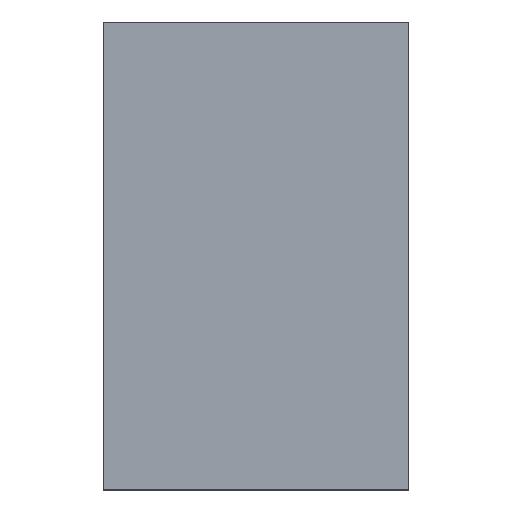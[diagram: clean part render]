
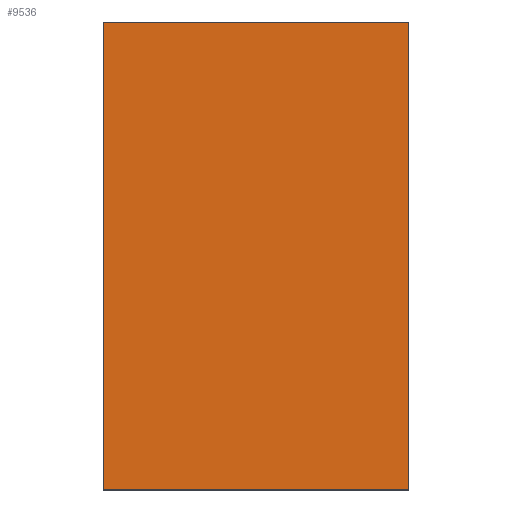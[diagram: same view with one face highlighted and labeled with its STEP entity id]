
A CAD part, top view. The second image highlights one B-rep face of the part: STEP entity #9536.
In plain terms, the highlighted planar face has unit normal (0, 0, 1).
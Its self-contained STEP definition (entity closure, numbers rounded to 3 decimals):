
#9484=CARTESIAN_POINT('Vertex',(-200.,555.268,78.)) ;
#9487=CARTESIAN_POINT('Line Origine',(0.,555.268,78.)) ;
#9491=CARTESIAN_POINT('Vertex',(200.,555.268,78.)) ;
#9506=CARTESIAN_POINT('Axis2P3D Location',(0.,-57.732,78.)) ;
#9511=CARTESIAN_POINT('Line Origine',(200.,248.768,78.)) ;
#9515=CARTESIAN_POINT('Vertex',(200.,-57.732,78.)) ;
#9518=CARTESIAN_POINT('Line Origine',(-200.,248.768,78.)) ;
#9522=CARTESIAN_POINT('Vertex',(-200.,-57.732,78.)) ;
#9525=CARTESIAN_POINT('Line Origine',(0.,-57.732,78.)) ;
#9488=DIRECTION('Vector Direction',(1.,0.,0.)) ;
#9507=DIRECTION('Axis2P3D Direction',(0.,0.,-1.)) ;
#9508=DIRECTION('Axis2P3D XDirection',(0.,1.,0.)) ;
#9512=DIRECTION('Vector Direction',(0.,1.,0.)) ;
#9519=DIRECTION('Vector Direction',(0.,1.,0.)) ;
#9526=DIRECTION('Vector Direction',(1.,0.,0.)) ;
#9509=AXIS2_PLACEMENT_3D('Plane Axis2P3D',#9506,#9507,#9508) ;
#9531=ORIENTED_EDGE('',*,*,#9517,.T.) ;
#9532=ORIENTED_EDGE('',*,*,#9493,.F.) ;
#9533=ORIENTED_EDGE('',*,*,#9524,.F.) ;
#9534=ORIENTED_EDGE('',*,*,#9529,.T.) ;
#9489=VECTOR('Line Direction',#9488,1.) ;
#9513=VECTOR('Line Direction',#9512,1.) ;
#9520=VECTOR('Line Direction',#9519,1.) ;
#9527=VECTOR('Line Direction',#9526,1.) ;
#9536=ADVANCED_FACE('Body.2',(#9535),#9510,.F.) ;
#9493=EDGE_CURVE('',#9485,#9492,#9490,.T.) ;
#9517=EDGE_CURVE('',#9516,#9492,#9514,.T.) ;
#9524=EDGE_CURVE('',#9523,#9485,#9521,.T.) ;
#9529=EDGE_CURVE('',#9523,#9516,#9528,.T.) ;
#9530=EDGE_LOOP('',(#9531,#9532,#9533,#9534)) ;
#9535=FACE_OUTER_BOUND('',#9530,.T.) ;
#9490=LINE('Line',#9487,#9489) ;
#9514=LINE('Line',#9511,#9513) ;
#9521=LINE('Line',#9518,#9520) ;
#9528=LINE('Line',#9525,#9527) ;
#9510=PLANE('',#9509) ;
#9485=VERTEX_POINT('',#9484) ;
#9492=VERTEX_POINT('',#9491) ;
#9516=VERTEX_POINT('',#9515) ;
#9523=VERTEX_POINT('',#9522) ;
